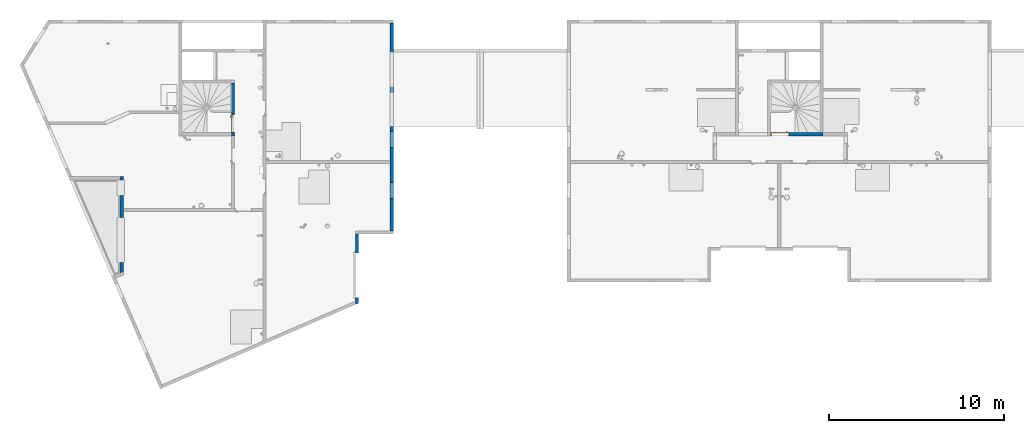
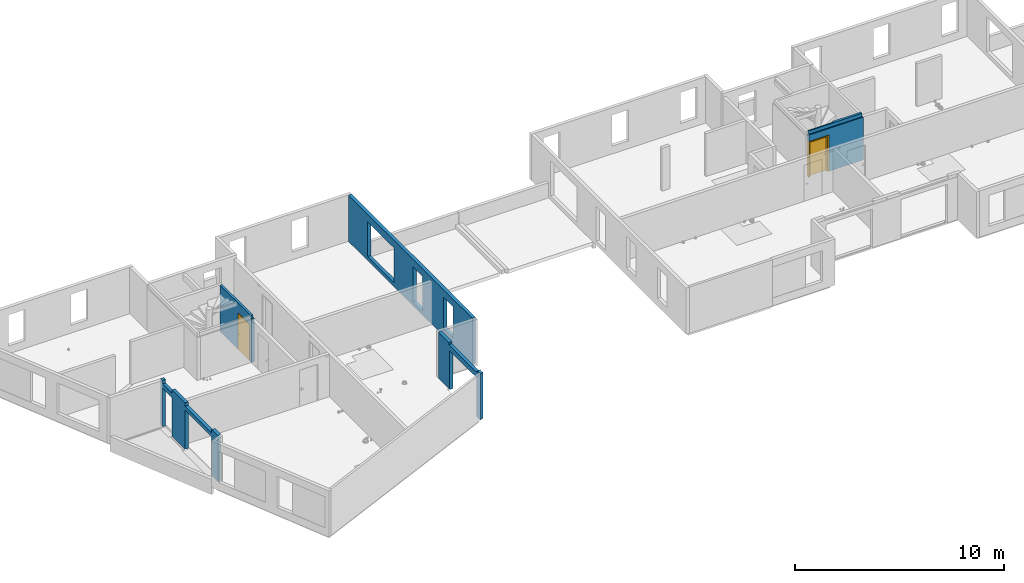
# One storey, part 17 of 24: 5 walls, 2 doors, 2 openings.
"""IFC2X3 building model written with IfcOpenShell, lengths in centimetres."""

from ifc_helpers import new_model, entity, si_unit, converted_unit, derived_unit, direction, frame, frame_2d, origin, place, context, subcontext, project, spatial, rectangle, extrude, faceted_brep, source, transform, mapped, material, material_list, layer, layer_set, type_object, type_shapes, element, fill, save


model = new_model("IFC2X3")

# Units and contexts
model_context = context("Model", 3, precision=0.001, world=origin(), true_north=direction((6.12303176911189e-17, 1.0)))
body_context = subcontext(model_context, "Body", "Model", "MODEL_VIEW")
ifc_project = project(units=[si_unit("LENGTHUNIT", "METRE", prefix="CENTI"), si_unit("AREAUNIT", "SQUARE_METRE"), si_unit("VOLUMEUNIT", "CUBIC_METRE"), converted_unit("PLANEANGLEUNIT", "DEGREE", entity("IfcRatioMeasure", 0.0174532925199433), si_unit("PLANEANGLEUNIT", "RADIAN"), dimensions=[0, 0, 0, 0, 0, 0, 0]), si_unit("MASSUNIT", "GRAM", prefix="KILO"), derived_unit("MASSDENSITYUNIT", [(si_unit("MASSUNIT", "GRAM", prefix="KILO"), 1), (si_unit("LENGTHUNIT", "METRE"), -3)]), si_unit("TIMEUNIT", "SECOND"), si_unit("FREQUENCYUNIT", "HERTZ"), si_unit("THERMODYNAMICTEMPERATUREUNIT", "DEGREE_CELSIUS"), derived_unit("THERMALTRANSMITTANCEUNIT", [(si_unit("MASSUNIT", "GRAM", prefix="KILO"), 1), (si_unit("THERMODYNAMICTEMPERATUREUNIT", "KELVIN"), -1), (si_unit("TIMEUNIT", "SECOND"), -3)]), derived_unit("VOLUMETRICFLOWRATEUNIT", [(si_unit("LENGTHUNIT", "METRE"), 3), (si_unit("TIMEUNIT", "SECOND"), -1)]), si_unit("ELECTRICCURRENTUNIT", "AMPERE"), si_unit("ELECTRICVOLTAGEUNIT", "VOLT"), si_unit("POWERUNIT", "WATT"), si_unit("FORCEUNIT", "NEWTON"), si_unit("ILLUMINANCEUNIT", "LUX"), si_unit("LUMINOUSFLUXUNIT", "LUMEN"), si_unit("LUMINOUSINTENSITYUNIT", "CANDELA"), derived_unit("USERDEFINED", [(si_unit("MASSUNIT", "GRAM", prefix="KILO"), -1), (si_unit("LENGTHUNIT", "METRE"), -2), (si_unit("TIMEUNIT", "SECOND"), 3), (si_unit("LUMINOUSFLUXUNIT", "LUMEN"), 1)]), derived_unit("LINEARVELOCITYUNIT", [(si_unit("LENGTHUNIT", "METRE"), 1), (si_unit("TIMEUNIT", "SECOND"), -1)]), si_unit("PRESSUREUNIT", "PASCAL"), derived_unit("USERDEFINED", [(si_unit("LENGTHUNIT", "METRE"), -2), (si_unit("MASSUNIT", "GRAM", prefix="KILO"), 1), (si_unit("TIMEUNIT", "SECOND"), -2)])], contexts=[model_context])

# Site, building, storey
site_placement = place(None, origin())
site = spatial("IfcSite", under=ifc_project, at=site_placement, Name="Default", CompositionType="ELEMENT")
building_placement = place(site_placement, origin())
building = spatial("IfcBuilding", under=site, at=building_placement, Name="CAGE 03", CompositionType="ELEMENT")
storey_placement = place(building_placement, frame((0.0, 0.0, 880.0)))
storey = spatial("IfcBuildingStorey", under=building, at=storey_placement, Name="R+3", CompositionType="ELEMENT", Elevation=880.0)

# Walls
ifc_material_1 = material(Name="Béton, C25/30")
ifc_layer = layer(ifc_material_1, 18.0)
ifc_layer_set = layer_set([ifc_layer], Name="Mur de base:Voile BA 18")
wall_type_1 = type_object("IfcWallType", Name="Mur de base:Voile BA 18", PredefinedType="STANDARD", material=ifc_layer_set)
wall_1_placement = place(storey_placement, frame((3327.86582014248, 3849.93428297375, 0.0), z_axis=(0.0, 0.0, 1.0), x_axis=(0.0, 1.0, 0.0)))
element("IfcWall", 1, at=wall_1_placement, inside=storey, type_object=wall_type_1, Name="Mur de base:Voile BA 18", ObjectType="Mur de base:Voile BA 18", context=body_context, shape_type="Brep", body=[
    faceted_brep([(7.78832528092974, -9.0, 0.0), (60.7263831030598, -9.0, 0.0), (60.7263831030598, -9.0, 226.0), (315.72638310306, -9.0, 226.0), (315.72638310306, -9.0, 0.0), (350.226383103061, -9.0, 0.0), (368.226383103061, -9.0, 0.0), (440.726383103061, -9.0, 0.0), (440.72638310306, -9.0, 226.0), (531.72638310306, -9.0, 226.0), (531.72638310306, -9.0, 0.0), (549.72638310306, -9.0, 0.0), (549.72638310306, -9.0, 250.0), (549.72638310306, -9.0, 270.0), (531.726383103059, -9.0, 270.0), (531.726383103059, -9.0, 250.0), (440.726383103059, -9.0, 250.0), (440.726383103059, -9.0, 270.0), (315.72638310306, -9.0, 270.0), (315.72638310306, -9.0, 250.0), (60.7263831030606, -9.0, 250.0), (60.7263831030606, -9.0, 270.0), (7.78832528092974, -9.0, 270.0), (7.78832528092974, -9.0, 250.0), (60.7263831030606, 9.0, 0.0), (0.0, 9.0, 0.0), (0.0, 9.0, 250.0), (0.0, 9.0, 269.609958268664), (0.0, 9.0, 270.0), (60.7263831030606, 9.0, 270.0), (60.7263831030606, 9.0, 269.609958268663), (60.7263831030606, 9.0, 265.0), (60.7263831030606, 9.0, 250.0), (315.72638310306, 9.0, 250.0), (315.72638310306, 9.0, 265.0), (315.72638310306, 9.0, 269.609958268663), (315.72638310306, 9.0, 270.0), (440.726383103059, 9.0, 270.0), (440.726383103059, 9.0, 269.609958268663), (440.726383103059, 9.0, 265.0), (440.726383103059, 9.0, 250.0), (531.726383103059, 9.0, 250.0), (531.726383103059, 9.0, 270.0), (549.72638310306, 9.0, 270.0), (549.72638310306, 9.0, 250.0), (549.72638310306, 9.0, 0.0), (531.726383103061, 9.0, 0.0), (531.72638310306, 9.0, 226.0), (440.726383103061, 9.0, 226.0), (440.72638310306, 9.0, 0.0), (315.726383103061, 9.0, 0.0), (315.72638310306, 9.0, 226.0), (60.7263831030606, 9.0, 226.0)], [[[0, 1, 2, 3, 4, 5, 6, 7, 8, 9, 10, 11, 12, 13, 14, 15, 16, 17, 18, 19, 20, 21, 22, 23]], [[24, 25, 26, 27, 28, 29, 30, 31, 32, 33, 34, 35, 36, 37, 38, 39, 40, 41, 42, 43, 44, 45, 46, 47, 48, 49, 50, 51, 52]], [[0, 25, 24, 1]], [[13, 43, 42, 14]], [[22, 28, 27, 26, 25, 0, 23]], [[11, 45, 44, 43, 13, 12]], [[52, 2, 1, 24]], [[2, 52, 51, 3]], [[3, 51, 50, 4]], [[48, 8, 7, 49]], [[8, 48, 47, 9]], [[9, 47, 46, 10]], [[18, 36, 35, 34, 33, 19]], [[20, 32, 31, 30, 29, 21]], [[41, 15, 14, 42]], [[37, 17, 16, 40, 39, 38]], [[40, 16, 15, 41]], [[32, 20, 19, 33]], [[36, 18, 17, 37]], [[28, 22, 21, 29]], [[4, 50, 49, 7, 6, 5]], [[45, 11, 10, 46]]]),
])
wall_2_placement = place(storey_placement, frame((4671.36582014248, 3669.61970228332, 0.0), z_axis=(0.0, 0.0, 1.0), x_axis=(0.0, 1.0, 0.0)))
element("IfcWall", 2, at=wall_2_placement, inside=storey, type_object=wall_type_1, Name="Mur de base:Voile BA 18", ObjectType="Mur de base:Voile BA 18", context=body_context, shape_type="Brep", body=[
    faceted_brep([(30.5409637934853, -9.0, 269.589956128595), (30.5409637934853, -9.0, 270.0), (27.4195266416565, -9.0, 270.0), (27.4586157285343, -9.0, 269.589956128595), (38.5409637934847, 9.0, 0.0), (30.5409637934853, 9.0, 0.0), (19.6127002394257, 9.0, 0.0), (13.6199307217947, 9.0, 0.0), (0.0, 9.0, 0.0), (0.0, 9.0, 270.0), (13.6199307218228, 9.0, 270.0), (30.5409637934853, 9.0, 270.0), (30.5409637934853, 9.0, 258.0), (301.540963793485, 9.0, 258.0), (301.540963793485, 9.0, 270.0), (402.540963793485, 9.0, 270.0), (402.540963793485, 9.0, 250.0), (402.540963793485, 9.0, 0.0), (301.540963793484, 9.0, 0.0), (293.540963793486, 9.0, 0.0), (293.540963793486, 9.0, 226.0), (38.5409637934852, 9.0, 226.0), (38.5409637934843, -9.0, 0.0), (30.5409637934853, -9.0, 0.0), (27.4195266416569, -9.0, 0.0), (27.4010255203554, -9.0, 0.0), (7.78832528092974, -9.0, 0.0), (402.540963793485, -9.0, 270.0), (301.540963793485, -7.0, 270.0), (301.540963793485, -9.0, 270.0), (402.540963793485, -9.0, 0.0), (38.5409637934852, -9.0, 226.0), (293.540963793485, -9.0, 226.0), (293.540963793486, -9.0, 0.0), (7.78832528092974, -9.0, 270.0), (30.5409637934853, -7.0, 270.0), (30.5409637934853, -7.0, 269.609958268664), (30.5409637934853, -7.0, 258.0), (301.540963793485, -7.0, 258.0), (301.540963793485, -7.0, 269.609958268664), (301.540963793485, -9.0, 269.589956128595), (10.2098113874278, -7.0, 250.0), (6.94096379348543, -7.0, 250.0), (7.80644107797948, -9.0, 250.0), (11.0752886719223, -9.0, 250.0), (401.540963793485, -7.0, 269.609958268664), (401.540963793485, -7.0, 250.0), (401.540963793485, -9.0, 250.0), (401.540963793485, -9.0, 269.589956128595), (26.5540493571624, -7.0, 270.0), (26.5912316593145, -7.0, 269.609958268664), (11.2994272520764, -7.0, 250.0), (397.540963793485, -7.0, 250.0), (397.540963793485, -7.0, 251.466307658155), (398.540963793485, -7.0, 251.0), (398.540963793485, -7.0, 250.0), (6.94096379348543, -7.0, 270.0), (10.2098113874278, -7.0, 251.0), (11.2994272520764, -7.0, 251.466307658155), (11.0752886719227, -9.0, 251.0), (12.1649045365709, -9.0, 251.466307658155), (12.1649045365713, -9.0, 250.0), (7.80644107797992, -9.0, 270.0), (398.540963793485, -9.0, 251.0), (398.540963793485, -9.0, 250.0), (397.540963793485, -9.0, 250.0), (397.540963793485, -9.0, 251.466307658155), (301.540963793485, -9.0, 0.0)], [[[0, 1, 2, 3]], [[4, 5, 6, 7, 8, 9, 10, 11, 12, 13, 14, 15, 16, 17, 18, 19, 20, 21]], [[22, 23, 24, 25, 26, 8, 7, 6, 5, 4]], [[27, 15, 14, 28, 29]], [[27, 30, 17, 16, 15]], [[21, 31, 22, 4]], [[31, 21, 20, 32]], [[32, 20, 19, 33]], [[26, 34, 9, 8]], [[12, 11, 35, 1, 0, 36, 37]], [[14, 13, 38, 39, 40, 29, 28]], [[13, 12, 37, 38]], [[41, 42, 43, 44]], [[45, 46, 47, 48]], [[49, 50, 3, 2]], [[51, 52, 53, 54, 55, 46, 45, 39, 38, 37, 36, 50, 49, 56, 42, 41, 57, 58]], [[50, 36, 0, 3]], [[57, 41, 44, 59]], [[51, 58, 60, 61]], [[58, 57, 59, 60]], [[42, 56, 62, 43]], [[55, 54, 63, 64]], [[53, 52, 65, 66]], [[54, 53, 66, 63]], [[39, 45, 48, 40]], [[52, 51, 61, 65]], [[46, 55, 64, 47]], [[9, 34, 62, 56, 49, 2, 1, 35, 11, 10]], [[17, 30, 67, 33, 19, 18]], [[30, 27, 29, 40, 48, 47, 64, 63, 66, 65, 61, 60, 59, 44, 43, 62, 34, 26, 25, 24, 23, 22, 31, 32, 33, 67]]]),
])
wall_3_placement = place(storey_placement, frame((4869.36582014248, 4090.16066607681, 0.0), z_axis=(0.0, 0.0, 1.0), x_axis=(0.0, 1.0, 0.0)))
element("IfcWall", 3, at=wall_3_placement, inside=storey, type_object=wall_type_1, Name="Mur de base:Voile BA 18", ObjectType="Mur de base:Voile BA 18", context=body_context, shape_type="Brep", body=[
    faceted_brep([(184.5, -9.0, 45.0), (184.5, -9.0, 226.0), (275.500000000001, -9.0, 226.0), (275.5, -9.0, 45.0), (475.499999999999, -9.0, 23.0), (475.499999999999, -9.0, 226.0), (566.5, -9.0, 226.0), (566.499999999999, -9.0, 23.0), (750.499999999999, -9.0, 23.0), (750.499999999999, -9.0, 226.0), (1001.5, -9.0, 226.0), (1001.5, -9.0, 23.0), (1185.5, -9.0, 270.0), (0.0, -9.0, 270.0), (0.0, -9.0, 0.0), (384.5, -9.0, 0.0), (384.5, -9.0, 23.0), (402.499999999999, -9.0, 23.0), (402.5, -9.0, 0.0), (580.500000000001, -9.0, 0.0), (596.5, -9.0, 0.0), (1020.5, -9.0, 0.0), (1038.5, -9.0, 0.0), (1185.5, -9.0, 0.0), (184.5, 9.0, 226.0), (184.5, 9.0, 45.0), (275.500000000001, 9.0, 45.0), (275.5, 9.0, 226.0), (475.499999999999, 9.0, 226.0), (475.499999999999, 9.0, 23.0), (566.5, 9.0, 23.0), (566.499999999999, 9.0, 226.0), (750.499999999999, 9.0, 226.0), (750.499999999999, 9.0, 23.0), (1001.5, 9.0, 23.0), (1001.5, 9.0, 226.0), (1185.5, 9.0, 0.0), (1038.5, 9.0, 0.0), (596.5, 9.0, 0.0), (402.499999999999, 9.0, 0.0), (384.499999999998, 9.0, 0.0), (0.0, 9.0, 0.0), (0.0, 9.0, 250.0), (0.0, 9.0, 270.0), (1185.5, 9.0, 270.0), (1185.5, 9.0, 250.0), (402.5, -7.0, 0.0), (384.5, -7.0, 0.0), (402.5, -7.0, 23.0), (384.5, -7.0, 23.0)], [[[0, 1, 2, 3], [4, 5, 6, 7], [8, 9, 10, 11], [12, 13, 14, 15, 16, 17, 18, 19, 20, 21, 22, 23]], [[24, 25, 26, 27], [28, 29, 30, 31], [32, 33, 34, 35], [36, 37, 38, 39, 40, 41, 42, 43, 44, 45]], [[41, 40, 39, 38, 37, 36, 23, 22, 21, 20, 19, 18, 46, 47, 15, 14]], [[13, 12, 44, 43]], [[14, 13, 43, 42, 41]], [[0, 25, 24, 1]], [[1, 24, 27, 2]], [[26, 3, 2, 27]], [[25, 0, 3, 26]], [[12, 23, 36, 45, 44]], [[28, 5, 4, 29]], [[31, 6, 5, 28]], [[6, 31, 30, 7]], [[7, 30, 29, 4]], [[8, 33, 32, 9]], [[9, 32, 35, 10]], [[34, 11, 10, 35]], [[33, 8, 11, 34]], [[48, 46, 18, 17]], [[49, 16, 15, 47]], [[46, 48, 49, 47]], [[49, 48, 17, 16]]], outer=[[False, False, False, True], [False, False, False, True], [True], [True], [True], [True], [True], [True], [True], [True], [True], [True], [True], [True], [True], [True], [True], [True], [True], [True], [True], [True]]),
])

# Wall, opening, door
wall_type_2 = type_object("IfcWallType", Name="Mur de base:premur 18", PredefinedType="NOTDEFINED")
wall_4_placement = place(storey_placement, frame((3963.36582014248, 4932.66066607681, 0.0), z_axis=(0.0, 0.0, 1.0), x_axis=(0.0, -1.0, 0.0)))
wall_4 = element("IfcWall", 4, at=wall_4_placement, inside=storey, type_object=wall_type_2, Name="Mur de base:premur 18", ObjectType="Mur de base:premur 18", context=body_context, shape_type="Brep", body=[
    faceted_brep([(0.0, -9.0, 270.0), (0.0, -9.0, 0.0), (175.0, -9.0, 0.0), (175.0, -9.0, 210.0), (282.0, -9.0, 210.0), (282.0, -9.0, 0.0), (294.5, -9.0, 0.0), (300.0, -9.0, 0.0), (300.0, -9.0, 237.5), (300.0, -9.0, 247.5), (300.0, -9.0, 250.0), (294.499999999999, -9.0, 250.0), (294.499999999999, -9.0, 270.0), (287.5, -9.0, 270.0), (282.0, -9.0, 270.0), (175.0, -9.0, 270.0), (300.0, 9.0, 0.0), (282.0, 9.0, 0.0), (282.0, 9.0, 210.0), (175.0, 9.0, 210.0), (175.0, 9.0, 0.0), (0.0, 9.0, 0.0), (0.0, 9.0, 250.0), (300.0, 9.0, 250.0), (300.0, 9.0, 247.5), (300.0, 9.0, 237.5), (0.0, 3.50000000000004, 0.0), (294.499999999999, 3.5000000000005, 270.0), (0.0, 3.50000000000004, 270.0), (0.0, 3.50000000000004, 250.0), (294.499999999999, 3.5000000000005, 250.0)], [[[0, 1, 2, 3, 4, 5, 6, 7, 8, 9, 10, 11, 12, 13, 14, 15]], [[16, 17, 18, 19, 20, 21, 22, 23, 24, 25]], [[1, 26, 21, 20, 2]], [[0, 15, 14, 13, 12, 27, 28]], [[1, 0, 28, 29, 22, 21, 26]], [[7, 16, 25, 24, 23, 10, 9, 8]], [[5, 4, 18, 17]], [[4, 3, 19, 18]], [[3, 2, 20, 19]], [[29, 30, 11, 10, 23, 22]], [[30, 27, 12, 11]], [[27, 30, 29, 28]], [[16, 7, 6, 5, 17]]]),
])
opening_1_placement = place(wall_4_placement, frame((282.0, 9.0, 0.0)))
opening_1 = element("IfcOpeningElement", 5, at=opening_1_placement, cuts=wall_4, Name="Int. Simple:HB103:1", ObjectType="Opening", context=body_context, shape_type="SweptSolid", body=[
    extrude(rectangle(XDim=210.000000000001, YDim=107.0, at=frame_2d((105.000000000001, 53.5000000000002), x_axis=(1.0, 0.0))), frame((0.0, 0.0, 0.0), z_axis=(0.0, -1.0, 0.0), x_axis=(0.0, 0.0, 1.0)), (0.0, 0.0, 1.0), 18.0),
])
ifc_material_2 = material(Name="Finition Peinture - Blanc satiné")
ifc_material_3 = material(Name="Bois - Panneau de porte")
ifc_material_4 = material(Name="Bois - Cadre de porte")
ifc_material_list_1 = material_list([ifc_material_2, ifc_material_3, ifc_material_4])
ifc_material_list_2 = material_list([ifc_material_2, ifc_material_3, ifc_material_4])
door_style = type_object("IfcDoorStyle", Name="HB103", ConstructionType="NOTDEFINED", OperationType="SINGLE_SWING_LEFT", ParameterTakesPrecedence=False, Sizeable=False, material=ifc_material_list_2)
shared_shape = source(origin(), body_context, "Body", "Brep", [
    faceted_brep([(10.5352761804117, -0.500000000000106, 86.6003983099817), (11.5000000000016, -0.500000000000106, 87.0), (11.5000000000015, -0.500000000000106, 108.0), (10.5352761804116, -0.500000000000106, 108.399601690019), (9.50000000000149, -0.500000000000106, 108.535898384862), (8.46472381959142, -0.500000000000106, 108.399601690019), (7.50000000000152, -0.500000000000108, 108.0), (7.50000000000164, -0.500000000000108, 87.0), (8.46472381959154, -0.500000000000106, 86.6003983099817), (9.5000000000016, -0.500000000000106, 86.464101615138), (10.5352761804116, 0.0, 108.399601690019), (11.5000000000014, 0.0, 108.0), (11.5000000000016, 0.0, 87.0), (10.5352761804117, 0.0, 86.6003983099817), (9.5000000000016, 0.0, 86.464101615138), (8.46472381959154, 0.0, 86.6003983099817), (7.50000000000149, 0.0, 87.0), (7.50000000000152, 0.0, 108.0), (8.46472381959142, 0.0, 108.399601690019), (9.50000000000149, 0.0, 108.535898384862)], [[[0, 1, 2, 3, 4, 5, 6, 7, 8, 9]], [[10, 11, 12, 13, 14, 15, 16, 17, 18, 19]], [[16, 15, 8, 7]], [[8, 15, 14, 9]], [[14, 13, 0, 9]], [[13, 12, 1, 0]], [[2, 1, 12, 11]], [[11, 10, 3, 2]], [[3, 10, 19, 4]], [[19, 18, 5, 4]], [[18, 17, 6, 5]], [[7, 6, 17, 16]]]),
    faceted_brep([(10.5352761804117, 3.0, 86.6003983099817), (11.5000000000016, 3.0, 87.0), (11.5000000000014, 3.0, 108.0), (10.5352761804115, 3.0, 108.399601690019), (9.50000000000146, 3.0, 108.535898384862), (8.4647238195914, 3.0, 108.399601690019), (7.50000000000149, 3.0, 108.0), (7.50000000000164, 3.0, 87.0), (8.46472381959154, 3.0, 86.6003983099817), (9.50000000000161, 3.0, 86.464101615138), (10.5352761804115, 3.49999999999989, 108.399601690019), (11.5000000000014, 3.49999999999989, 108.0), (11.5000000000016, 3.49999999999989, 87.0), (10.5352761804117, 3.49999999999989, 86.6003983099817), (9.50000000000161, 3.49999999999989, 86.464101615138), (8.46472381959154, 3.49999999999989, 86.6003983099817), (7.50000000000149, 3.49999999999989, 87.0), (7.50000000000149, 3.49999999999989, 108.0), (8.4647238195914, 3.49999999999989, 108.399601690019), (9.50000000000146, 3.49999999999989, 108.535898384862)], [[[0, 1, 2, 3, 4, 5, 6, 7, 8, 9]], [[10, 11, 12, 13, 14, 15, 16, 17, 18, 19]], [[11, 10, 3, 2]], [[3, 10, 19, 4]], [[19, 18, 5, 4]], [[18, 17, 6, 5]], [[7, 6, 17, 16]], [[16, 15, 8, 7]], [[8, 15, 14, 9]], [[14, 13, 0, 9]], [[13, 12, 1, 0]], [[2, 1, 12, 11]]]),
    faceted_brep([(9.29747013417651, -0.500000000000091, 100.778044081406), (9.70252986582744, -0.500000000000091, 100.778044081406), (10.1000000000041, -0.500000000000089, 100.699999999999), (10.1000000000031, -0.500000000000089, 99.3000000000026), (9.7025298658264, -0.500000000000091, 99.2219559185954), (9.29747013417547, -0.500000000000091, 99.2219559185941), (8.89999999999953, -0.500000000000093, 99.2999999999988), (8.89999999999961, -0.500000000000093, 100.7), (8.8999999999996, -3.26509507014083, 100.7), (9.29747013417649, -3.1004575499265, 100.778044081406), (10.9023585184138, -4.70534593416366, 100.778044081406), (11.0701397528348, -4.30028620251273, 100.778044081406), (9.70252986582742, -2.93267631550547, 100.778044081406), (10.1000000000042, -2.76803879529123, 100.7), (10.1000000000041, -2.76803879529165, 99.3000000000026), (9.7025298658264, -2.93267631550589, 99.2219559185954), (11.0701397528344, -4.30028620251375, 99.2219559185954), (10.9023585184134, -4.70534593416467, 99.2219559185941), (9.29747013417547, -3.10045754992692, 99.2219559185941), (8.89999999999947, -3.26509507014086, 99.2999999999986), (10.7377209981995, -5.10281606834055, 100.7), (11.2347772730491, -3.90281606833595, 100.7), (11.2347772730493, -3.90281606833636, 99.3000000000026), (10.7377209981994, -5.10281606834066, 99.2999999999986), (19.5018640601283, -5.10281606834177, 99.2999999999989), (19.5018640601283, -4.70534593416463, 99.2219559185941), (19.5018640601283, -4.30028620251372, 99.2219559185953), (19.5018640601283, -3.90281606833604, 99.3000000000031), (19.5018640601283, -3.90281606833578, 100.7), (19.5018640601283, -4.30028620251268, 100.778044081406), (19.5018640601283, -4.7053459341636, 100.778044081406), (19.5018640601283, -5.10281606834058, 100.699999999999), (14.7307697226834, -5.10281606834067, 100.7), (15.2860019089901, -4.50281606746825, 100.78786867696), (15.3683206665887, -3.90281606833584, 100.7), (15.3683206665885, -3.90281606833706, 99.3000000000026), (15.2860018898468, -4.50281607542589, 99.2121313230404), (14.7307703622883, -5.10281606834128, 99.2999999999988)], [[[0, 1, 2, 3, 4, 5, 6, 7]], [[8, 9, 0, 7]], [[9, 10, 11, 12, 1, 0]], [[12, 13, 2, 1]], [[3, 2, 13, 14]], [[14, 15, 4, 3]], [[15, 16, 17, 18, 5, 4]], [[18, 19, 6, 5]], [[7, 6, 19, 8]], [[20, 10, 9, 8]], [[11, 21, 13, 12]], [[14, 13, 21, 22]], [[22, 16, 15, 14]], [[17, 23, 19, 18]], [[8, 19, 23, 20]], [[24, 25, 26, 27, 28, 29, 30, 31]], [[32, 30, 33]], [[31, 30, 32]], [[10, 20, 32]], [[33, 34, 11]], [[21, 11, 34]], [[34, 29, 28]], [[30, 29, 33]], [[29, 34, 33]], [[10, 32, 33]], [[10, 33, 11]], [[22, 21, 34, 28, 27, 35]], [[35, 26, 36]], [[37, 36, 25]], [[22, 35, 16]], [[35, 27, 26]], [[24, 37, 25]], [[23, 17, 37]], [[37, 17, 36]], [[17, 16, 36]], [[16, 35, 36]], [[25, 36, 26]], [[20, 23, 37, 24, 31, 32]]]),
    faceted_brep([(9.29747013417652, 3.49999999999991, 100.778044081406), (8.89999999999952, 3.4999999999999, 100.7), (8.89999999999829, 3.4999999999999, 99.299999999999), (9.29747013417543, 3.49999999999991, 99.2219559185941), (9.70252986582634, 3.49999999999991, 99.2219559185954), (10.1000000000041, 3.49999999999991, 99.3000000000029), (10.1000000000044, 3.49999999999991, 100.7), (9.70252986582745, 3.49999999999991, 100.778044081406), (10.1000000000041, 5.74852045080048, 99.3000000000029), (10.1000000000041, 5.74852045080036, 100.7), (9.70252986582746, 5.91315797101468, 100.778044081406), (11.0838906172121, 7.29451872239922, 100.778044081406), (10.9161093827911, 7.69957845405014, 100.778044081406), (9.29747013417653, 6.08093920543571, 100.778044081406), (8.89999999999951, 6.2455767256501, 100.7), (8.8999999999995, 6.24557672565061, 99.299999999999), (9.29747013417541, 6.08093920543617, 99.2219559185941), (10.9161093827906, 7.69957845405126, 99.2219559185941), (11.0838906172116, 7.29451872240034, 99.2219559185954), (9.70252986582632, 5.91315797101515, 99.2219559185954), (11.2485281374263, 6.89704858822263, 99.3000000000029), (11.2485281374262, 6.89704858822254, 100.7), (10.7514718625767, 8.09704858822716, 100.7), (10.7514718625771, 8.09704858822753, 99.299999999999), (19.5045783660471, 6.8970485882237, 99.3000000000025), (19.5045783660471, 7.29451872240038, 99.2219559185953), (19.5045783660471, 7.6995784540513, 99.2219559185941), (19.5045783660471, 8.09704858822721, 99.2999999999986), (19.5045783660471, 8.0970485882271, 100.7), (19.5045783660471, 7.6995784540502, 100.778044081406), (19.5045783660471, 7.29451872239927, 100.778044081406), (19.5045783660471, 6.89704858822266, 100.7), (15.3765532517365, 6.89704858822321, 99.3000000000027), (15.3765532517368, 6.89704858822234, 100.7), (15.2942344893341, 7.4970485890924, 100.78786867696), (14.7445205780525, 8.09704858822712, 100.7), (14.7445205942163, 8.09704858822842, 99.299999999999), (15.2942345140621, 7.49704858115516, 99.2121313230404)], [[[0, 1, 2, 3, 4, 5, 6, 7]], [[6, 5, 8, 9]], [[9, 10, 7, 6]], [[10, 11, 12, 13, 0, 7]], [[13, 14, 1, 0]], [[2, 1, 14, 15]], [[15, 16, 3, 2]], [[16, 17, 18, 19, 4, 3]], [[19, 8, 5, 4]], [[9, 8, 20, 21]], [[21, 11, 10, 9]], [[12, 22, 14, 13]], [[15, 14, 22, 23]], [[23, 17, 16, 15]], [[18, 20, 8, 19]], [[24, 25, 26, 27, 28, 29, 30, 31]], [[21, 20, 32, 24, 31, 33]], [[33, 30, 34]], [[35, 34, 29]], [[21, 33, 11]], [[33, 31, 30]], [[28, 35, 29]], [[22, 12, 35]], [[35, 12, 34]], [[12, 11, 34]], [[11, 33, 34]], [[29, 34, 30]], [[22, 35, 28, 27, 36, 23]], [[36, 26, 37]], [[27, 26, 36]], [[17, 23, 36]], [[37, 32, 18]], [[20, 18, 32]], [[32, 25, 24]], [[26, 25, 37]], [[25, 32, 37]], [[17, 36, 37]], [[17, 37, 18]]]),
    faceted_brep([(3.5000000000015, 3.0, 206.5), (103.500000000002, 3.0, 206.5), (103.500000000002, 3.0, 0.0), (3.5000000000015, 3.0, 0.0), (3.5000000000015, 0.0, 206.5), (3.5000000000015, 0.0, 0.0), (103.500000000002, 0.0, 0.0), (103.500000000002, 0.0, 206.5)], [[[0, 1, 2, 3]], [[4, 5, 6, 7]], [[1, 0, 4, 7]], [[2, 1, 7, 6]], [[3, 2, 6, 5]], [[0, 3, 5, 4]]]),
    faceted_brep([(0.0, 0.0, 0.0), (0.0, 18.0, 0.0), (5.0, 18.0, 0.0), (5.0, 3.0, 0.0), (3.50000000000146, 3.0, 0.0), (3.50000000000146, 0.0, 0.0), (0.0, 0.0, 210.0), (0.0, 18.0, 210.0), (107.0, 18.0, 210.0), (107.0, 18.0, 0.0), (102.0, 18.0, 0.0), (102.0, 18.0, 205.0), (5.0, 18.0, 205.0), (5.0, 3.0, 205.0), (102.0, 3.0, 205.0), (102.0, 3.0, 0.0), (103.499999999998, 3.0, 0.0), (103.499999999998, 3.0, 206.5), (3.50000000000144, 3.0, 206.5), (3.50000000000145, 0.0, 206.5), (103.499999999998, 0.0, 206.5), (103.499999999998, 0.0, 0.0), (107.0, 0.0, 0.0), (107.0, 0.0, 210.0)], [[[0, 1, 2, 3, 4, 5]], [[1, 0, 6, 7]], [[2, 1, 7, 8, 9, 10, 11, 12]], [[3, 2, 12, 13]], [[4, 3, 13, 14, 15, 16, 17, 18]], [[5, 4, 18, 19]], [[0, 5, 19, 20, 21, 22, 23, 6]], [[8, 23, 22, 9]], [[22, 21, 16, 15, 10, 9]], [[14, 11, 10, 15]], [[20, 17, 16, 21]], [[7, 6, 23, 8]], [[13, 12, 11, 14]], [[19, 18, 17, 20]]]),
    faceted_brep([(1.49999999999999, 18.0, 0.0), (-1.5, 18.0, 0.0), (-1.5, 18.5000000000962, 0.0), (1.49999999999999, 18.5000000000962, 0.0), (1.49999999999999, 18.0, 208.500000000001), (105.5, 18.0, 208.500000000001), (105.5, 18.0, 0.0), (108.5, 18.0, 0.0), (108.5, 18.0, 211.500000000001), (-1.50000000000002, 18.0, 211.500000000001), (-1.5, 18.5000000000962, 211.500000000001), (108.5, 18.5000000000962, 211.500000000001), (108.5, 18.5000000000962, 0.0), (105.5, 18.5000000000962, 0.0), (105.5, 18.5000000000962, 208.500000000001), (1.49999999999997, 18.5000000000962, 208.500000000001)], [[[0, 1, 2, 3]], [[1, 0, 4, 5, 6, 7, 8, 9]], [[2, 1, 9, 10]], [[3, 2, 10, 11, 12, 13, 14, 15]], [[0, 3, 15, 4]], [[6, 13, 12, 7]], [[5, 14, 13, 6]], [[11, 8, 7, 12]], [[10, 9, 8, 11]], [[4, 15, 14, 5]]]),
    faceted_brep([(-1.5, -0.5, 0.0), (1.49999999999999, -0.5, 0.0), (1.49999999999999, -0.5, 208.500000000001), (105.5, -0.5, 208.500000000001), (105.5, -0.5, 0.0), (108.5, -0.5, 0.0), (108.5, -0.5, 211.500000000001), (-1.50000000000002, -0.5, 211.500000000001), (-1.5, 0.0, 0.0), (-1.5, 0.0, 211.500000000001), (1.49999999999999, 0.0, 0.0), (108.5, 0.0, 211.500000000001), (108.5, 0.0, 0.0), (105.5, 0.0, 0.0), (105.5, 0.0, 208.500000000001), (1.49999999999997, 0.0, 208.500000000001)], [[[0, 1, 2, 3, 4, 5, 6, 7]], [[8, 0, 7, 9]], [[10, 8, 9, 11, 12, 13, 14, 15]], [[1, 10, 15, 2]], [[3, 14, 13, 4]], [[11, 6, 5, 12]], [[9, 7, 6, 11]], [[2, 15, 14, 3]], [[4, 13, 12, 5]], [[1, 0, 8, 10]]]),
])
type_shapes(door_style, [shared_shape])
door_1_placement = place(opening_1_placement, frame((-107.0, -18.0, 0.0)))
door_1 = element("IfcDoor", 6, at=door_1_placement, inside=storey, type_object=door_style, material=ifc_material_list_1, Name="Int. Simple:HB103", ObjectType="HB103", OverallHeight=210.000000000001, OverallWidth=107.0, context=body_context, shape_type="MappedRepresentation", body=[
    mapped(shared_shape, transform((0.0, 0.0, 0.0), scale=1.0)),
])
fill(opening_1, door_1)

wall_5_placement = place(storey_placement, frame((7031.36582014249, 4641.6606660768, 0.0)))
wall_5 = element("IfcWall", 7, at=wall_5_placement, inside=storey, type_object=wall_type_2, Name="Mur de base:premur 18", ObjectType="Mur de base:premur 18", context=body_context, shape_type="Brep", body=[
    faceted_brep([(107.0, -9.0, 0.0), (300.0, -9.0, 0.0), (300.0, -9.0, 250.0), (0.0, -9.0, 250.0), (0.0, -9.0, 210.0), (107.0, -9.0, 210.0), (300.0, 9.0, 0.0), (294.499999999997, 9.0, 0.0), (282.0, 9.0, 0.0), (141.0, 9.0, 0.0), (107.0, 9.0, 0.0), (107.0, 9.0, 210.0), (0.0, 9.0, 210.0), (0.0, 9.0, 250.0), (141.0, 9.0, 250.0), (141.0, 9.0, 270.0), (282.0, 9.0, 270.0), (294.499999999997, 9.0, 270.0), (294.499999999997, 9.0, 250.0), (300.0, 9.0, 250.0), (0.0, -3.50000000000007, 270.0), (294.499999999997, -3.50000000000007, 270.0), (141.0, 3.49999999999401, 270.0), (0.0, 3.50000000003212, 270.0), (0.0, -3.50000000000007, 250.0), (0.0, 3.50000000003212, 250.0), (294.499999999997, -3.50000000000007, 250.0), (141.0, 3.49999999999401, 250.0)], [[[0, 1, 2, 3, 4, 5]], [[6, 7, 8, 9, 10, 11, 12, 13, 14, 15, 16, 17, 18, 19]], [[6, 1, 0, 10, 9, 8, 7]], [[20, 21, 17, 16, 15, 22, 23]], [[12, 4, 3, 24, 20, 23, 25, 13]], [[1, 6, 19, 2]], [[11, 5, 4, 12]], [[5, 11, 10, 0]], [[26, 24, 3, 2, 19, 18]], [[24, 26, 21, 20]], [[27, 14, 13, 25]], [[27, 22, 15, 14]], [[22, 27, 25, 23]], [[21, 26, 18, 17]]]),
])
opening_2_placement = place(wall_5_placement, frame((0.0, -9.0, 0.0)))
opening_2 = element("IfcOpeningElement", 8, at=opening_2_placement, cuts=wall_5, Name="Int. Simple:HB103:1", ObjectType="Opening", context=body_context, shape_type="SweptSolid", body=[
    extrude(rectangle(XDim=210.000000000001, YDim=107.0, at=frame_2d((105.000000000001, 53.4999999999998), x_axis=(1.0, 0.0))), frame((0.0, 0.0, 0.0), z_axis=(0.0, 1.0, 0.0), x_axis=(0.0, 0.0, 1.0)), (0.0, 0.0, 1.0), 18.0),
])
ifc_material_list_3 = material_list([ifc_material_2, ifc_material_3, ifc_material_4])
door_2_placement = place(opening_2_placement, frame((107.0, 18.0, 0.0), z_axis=(0.0, 0.0, 1.0), x_axis=(-1.0, 0.0, 0.0)))
door_2 = element("IfcDoor", 9, at=door_2_placement, inside=storey, type_object=door_style, material=ifc_material_list_3, Name="Int. Simple:HB103", ObjectType="HB103", OverallHeight=210.000000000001, OverallWidth=107.0, context=body_context, shape_type="MappedRepresentation", body=[
    mapped(shared_shape, transform((0.0, 0.0, 0.0), scale=1.0)),
])
fill(opening_2, door_2)

save(model, "model.ifc")
